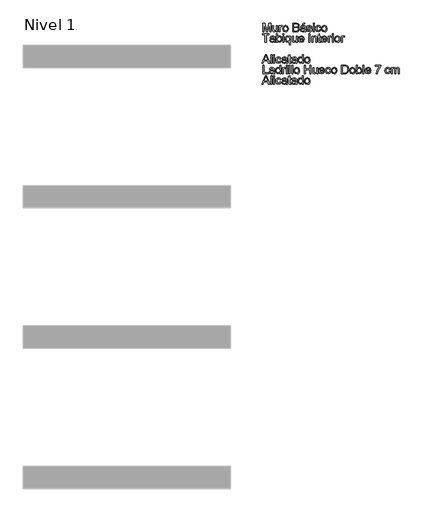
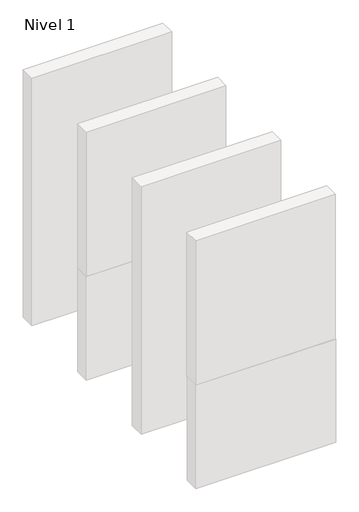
# One storey, part 2 of 2: 1 proxy.
"""IFC4 building model written with IfcOpenShell, lengths in millimetres."""

from ifc_helpers import new_model, si_unit, origin, origin_with_axes, place, context, project, spatial, polyline, outline, extrude, element, save

model = new_model("IFC4")

# Units and contexts
model_context = context("Model", 3, world=origin())
ifc_project = project(units=[si_unit("LENGTHUNIT", "METRE", prefix="MILLI")], contexts=[model_context])

# Site, building, storey
site = spatial("IfcSite", under=ifc_project)
building = spatial("IfcBuilding", under=site)
storey = spatial("IfcBuildingStorey", under=building, Name="Nivel 1", Elevation=0.0)

# Proxy
placement = place(None, origin())
element("IfcBuildingElementProxy", 1, Name="4mm Arial", ObjectType="4mm Arial", at=placement, inside=storey, context=model_context, shape_type="SweptSolid", body=[
    extrude(outline(polyline([(-3843.5493625, -1002.1417002), (-3843.5493625, -962.7570848), (-3835.0782087, -962.7570848), (-3827.0205163, -990.5167002), (-3825.3955163, -996.3147771), (-3823.635901, -990.0359309), (-3815.712824, -962.7570848), (-3807.2416702, -962.7570848), (-3807.2416702, -1002.1417002), (-3812.1647471, -1002.1417002), (-3812.1647471, -967.6801617), (-3822.0589779, -1002.1417002), (-3828.7320548, -1002.1417002), (-3838.6262856, -967.6801617), (-3838.6262856, -1002.1417002), (-3843.5493625, -1002.1417002)])), origin_with_axes(), (0.0, 0.0, 1.0), 10.0),
    extrude(outline(polyline([(-3780.7801317, -1002.1417002), (-3780.7801317, -997.1705463), (-3789.6647471, -1002.7570848), (-3794.2945548, -1001.7763155), (-3797.4868625, -999.3147771), (-3798.9532087, -995.6897771), (-3799.2416702, -991.112854), (-3799.2416702, -973.2186232), (-3794.3185933, -973.2186232), (-3794.3185933, -988.7955463), (-3794.0205163, -993.8147771), (-3792.073401, -996.7618925), (-3788.4051317, -997.8340079), (-3784.2945548, -996.737854), (-3781.5782087, -993.7522771), (-3780.7801317, -988.2667002), (-3780.7801317, -973.2186232), (-3775.8570548, -973.2186232), (-3775.8570548, -1002.1417002), (-3780.7801317, -1002.1417002)])), origin_with_axes(), (0.0, 0.0, 1.0), 10.0),
    extrude(outline(polyline([(-3769.087824, -1002.1417002), (-3769.087824, -973.2186232), (-3764.7801317, -973.2186232), (-3764.7801317, -977.4974694), (-3761.7224394, -973.5551617), (-3758.6455163, -972.6032386), (-3753.7032087, -974.1224694), (-3755.3474394, -978.5359309), (-3758.8089779, -977.5263155), (-3761.5926317, -978.4974694), (-3763.3666702, -981.1897771), (-3764.1647471, -986.9397771), (-3764.1647471, -1002.1417002), (-3769.087824, -1002.1417002)])), origin_with_axes(), (0.0, 0.0, 1.0), 10.0),
    extrude(outline(polyline([(-3751.8570548, -987.6801617), (-3747.5974394, -975.8051617), (-3738.9243625, -972.6032386), (-3729.6214779, -976.5022771), (-3726.010901, -987.2763155), (-3727.6070548, -996.0359309), (-3732.2560933, -1000.9926617), (-3738.9243625, -1002.7570848), (-3748.2849394, -998.8724694), (-3751.8570548, -987.6801617)]), holes=[polyline([(-3746.9339779, -987.6705463), (-3744.6551317, -995.300354), (-3738.9243625, -997.8340079), (-3733.212824, -995.2859309), (-3730.9339779, -987.5167002), (-3733.2272471, -980.0599694), (-3738.9243625, -977.5263155), (-3744.6551317, -980.050354), (-3746.9339779, -987.6705463)])]), origin_with_axes(), (0.0, 0.0, 1.0), 10.0),
    extrude(outline(polyline([(-3704.4724394, -1002.1417002), (-3704.4724394, -962.7570848), (-3689.4435933, -962.7570848), (-3682.0830163, -963.9157386), (-3677.7368625, -967.4782386), (-3676.1647471, -972.5167002), (-3677.4868625, -977.1176617), (-3681.4820548, -980.6032386), (-3676.6310933, -984.2763155), (-3674.9339779, -990.4013155), (-3676.0926317, -995.6945848), (-3678.962824, -999.4638155), (-3683.2464779, -1001.4638155), (-3689.5589779, -1002.1417002), (-3704.4724394, -1002.1417002)]), holes=[polyline([(-3699.5493625, -978.7570848), (-3690.5589779, -978.7570848), (-3685.3089779, -978.3340079), (-3682.150324, -976.5118925), (-3681.087824, -973.3051617), (-3682.0782087, -970.0936232), (-3684.9147471, -968.1945848), (-3691.2416702, -967.6801617), (-3699.5493625, -967.6801617), (-3699.5493625, -978.7570848)]), polyline([(-3699.5493625, -997.2186232), (-3689.4532087, -997.2186232), (-3685.7993625, -997.0263155), (-3682.7080163, -995.9542002), (-3680.6599394, -993.7667002), (-3679.8570548, -990.4493925), (-3680.7993625, -986.6224694), (-3683.8522471, -984.3388155), (-3689.9339779, -983.6801617), (-3699.5493625, -983.6801617), (-3699.5493625, -997.2186232)])]), origin_with_axes(), (0.0, 0.0, 1.0), 10.0),
    extrude(outline(polyline([(-3650.3185933, -998.4493925), (-3655.0926317, -1001.7859309), (-3660.3666702, -1002.7570848), (-3667.5157087, -1000.4205463), (-3670.010901, -994.4493925), (-3669.0685933, -990.5551617), (-3666.5926317, -987.7282386), (-3663.1455163, -986.112854), (-3658.885901, -985.3724694), (-3650.3474394, -983.6801617), (-3651.6743625, -978.9493925), (-3657.1166702, -977.5263155), (-3662.0974394, -978.4734309), (-3664.4724394, -981.8340079), (-3669.3955163, -981.2186232), (-3667.2657087, -976.4109309), (-3662.9772471, -973.5936232), (-3656.4820548, -972.6032386), (-3650.5157087, -973.4782386), (-3647.1455163, -975.675354), (-3645.635901, -979.0167002), (-3645.3955163, -983.3243925), (-3645.3955163, -989.4493925), (-3645.1455163, -998.0022771), (-3644.1647471, -1002.1417002), (-3649.087824, -1002.1417002), (-3650.3185933, -998.4493925)]), holes=[polyline([(-3650.3330163, -989.300354), (-3658.260901, -990.112854), (-3662.4964779, -990.9109309), (-3664.4147471, -992.2090079), (-3665.087824, -994.1032386), (-3663.6214779, -996.7667002), (-3659.3185933, -997.8340079), (-3654.337824, -996.6561232), (-3651.1262856, -993.8051617), (-3650.3330163, -989.300354)])]), origin_with_axes(), (0.0, 0.0, 1.0), 10.0),
    extrude(outline(polyline([(-3660.1647471, -970.1417002), (-3656.4724394, -962.7570848), (-3650.3185933, -962.7570848), (-3656.4724394, -970.1417002), (-3660.1647471, -970.1417002)])), origin_with_axes(), (0.0, 0.0, 1.0), 10.0),
    extrude(outline(polyline([(-3640.4724394, -993.5263155), (-3635.5493625, -992.9109309), (-3633.2705163, -996.5647771), (-3628.0493625, -997.8340079), (-3623.0301317, -996.6705463), (-3621.3955163, -993.9397771), (-3623.0397471, -991.7282386), (-3628.1070548, -990.3243925), (-3635.5205163, -987.9157386), (-3638.7560933, -985.1032386), (-3639.8570548, -981.1320848), (-3638.9724394, -977.4638155), (-3636.5589779, -974.6609309), (-3633.4291702, -973.2042002), (-3629.1935933, -972.6032386), (-3623.2032087, -973.5695848), (-3619.3955163, -976.1849694), (-3617.7032087, -980.6032386), (-3622.6262856, -981.2186232), (-3624.4772471, -978.5022771), (-3628.8089779, -977.5263155), (-3633.5205163, -978.4590079), (-3634.9339779, -980.6320848), (-3632.510901, -983.1513155), (-3628.2705163, -984.1993925), (-3621.0445548, -986.5167002), (-3617.6887856, -989.1417002), (-3616.4724394, -993.4205463), (-3617.900324, -998.1320848), (-3622.0205163, -1001.550354), (-3628.1166702, -1002.7570848), (-3636.7032087, -1000.4301617), (-3640.4724394, -993.5263155)])), origin_with_axes(), (0.0, 0.0, 1.0), 10.0),
    extrude(outline(polyline([(-3610.9339779, -1002.1417002), (-3610.9339779, -973.2186232), (-3606.010901, -973.2186232), (-3606.010901, -1002.1417002), (-3610.9339779, -1002.1417002)])), origin_with_axes(), (0.0, 0.0, 1.0), 10.0),
    extrude(outline(polyline([(-3610.9339779, -967.6801617), (-3610.9339779, -962.7570848), (-3606.010901, -962.7570848), (-3606.010901, -967.6801617), (-3610.9339779, -967.6801617)])), origin_with_axes(), (0.0, 0.0, 1.0), 10.0),
    extrude(outline(polyline([(-3580.1647471, -991.6801617), (-3575.2416702, -992.2955463), (-3579.1935933, -999.9830463), (-3587.0012856, -1002.7570848), (-3596.3330163, -998.8868925), (-3599.8570548, -987.7859309), (-3598.3522471, -979.6080463), (-3593.7657087, -974.3532386), (-3587.0685933, -972.6032386), (-3579.5830163, -975.0070848), (-3575.8570548, -981.8340079), (-3580.7801317, -982.4493925), (-3583.0637856, -978.7618925), (-3587.0301317, -977.5263155), (-3592.7368625, -979.9590079), (-3594.9339779, -987.6513155), (-3592.7849394, -995.4157386), (-3587.1647471, -997.8340079), (-3582.525324, -996.3243925), (-3580.1647471, -991.6801617)])), origin_with_axes(), (0.0, 0.0, 1.0), 10.0),
    extrude(outline(polyline([(-3572.1647471, -987.6801617), (-3567.9051317, -975.8051617), (-3559.2320548, -972.6032386), (-3549.9291702, -976.5022771), (-3546.3185933, -987.2763155), (-3547.9147471, -996.0359309), (-3552.5637856, -1000.9926617), (-3559.2320548, -1002.7570848), (-3568.5926317, -998.8724694), (-3572.1647471, -987.6801617)]), holes=[polyline([(-3567.2416702, -987.6705463), (-3564.962824, -995.300354), (-3559.2320548, -997.8340079), (-3553.5205163, -995.2859309), (-3551.2416702, -987.5167002), (-3553.5349394, -980.0599694), (-3559.2320548, -977.5263155), (-3564.962824, -980.050354), (-3567.2416702, -987.6705463)])]), origin_with_axes(), (0.0, 0.0, 1.0), 10.0),
    extrude(outline(polyline([(-3833.7032087, -1050.7570848), (-3833.7032087, -1016.2955463), (-3846.6262856, -1016.2955463), (-3846.6262856, -1011.3724694), (-3815.8570548, -1011.3724694), (-3815.8570548, -1016.2955463), (-3828.7801317, -1016.2955463), (-3828.7801317, -1050.7570848), (-3833.7032087, -1050.7570848)])), origin_with_axes(), (0.0, 0.0, 1.0), 10.0),
    extrude(outline(polyline([(-3792.4724394, -1047.0647771), (-3797.2464779, -1050.4013155), (-3802.5205163, -1051.3724694), (-3809.6695548, -1049.0359309), (-3812.1647471, -1043.0647771), (-3811.2224394, -1039.1705463), (-3808.7464779, -1036.3436232), (-3805.2993625, -1034.7282386), (-3801.0397471, -1033.987854), (-3792.5012856, -1032.2955463), (-3793.8282087, -1027.5647771), (-3799.2705163, -1026.1417002), (-3804.2512856, -1027.0888155), (-3806.6262856, -1030.4493925), (-3811.5493625, -1029.8340079), (-3809.4195548, -1025.0263155), (-3805.1310933, -1022.2090079), (-3798.635901, -1021.2186232), (-3792.6695548, -1022.0936232), (-3789.2993625, -1024.2907386), (-3787.7897471, -1027.6320848), (-3787.5493625, -1031.9397771), (-3787.5493625, -1038.0647771), (-3787.2993625, -1046.6176617), (-3786.3185933, -1050.7570848), (-3791.2416702, -1050.7570848), (-3792.4724394, -1047.0647771)]), holes=[polyline([(-3792.4868625, -1037.9157386), (-3800.4147471, -1038.7282386), (-3804.650324, -1039.5263155), (-3806.5685933, -1040.8243925), (-3807.2416702, -1042.7186232), (-3805.775324, -1045.3820848), (-3801.4724394, -1046.4493925), (-3796.4916702, -1045.2715079), (-3793.2801317, -1042.4205463), (-3792.4868625, -1037.9157386)])]), origin_with_axes(), (0.0, 0.0, 1.0), 10.0),
    extrude(outline(polyline([(-3775.8570548, -1050.7570848), (-3780.7801317, -1050.7570848), (-3780.7801317, -1011.3724694), (-3775.8570548, -1011.3724694), (-3775.8570548, -1025.9782386), (-3768.1262856, -1021.2186232), (-3763.1935933, -1022.2907386), (-3759.3666702, -1025.3051617), (-3757.0157087, -1029.9926617), (-3756.1647471, -1035.862854), (-3759.6887856, -1047.3243925), (-3768.1551317, -1051.3724694), (-3775.8570548, -1046.1513155), (-3775.8570548, -1050.7570848)]), holes=[polyline([(-3775.8570548, -1036.0936232), (-3774.510901, -1042.9782386), (-3768.5782087, -1046.4493925), (-3763.3089779, -1043.8917002), (-3761.087824, -1036.2667002), (-3763.2176317, -1028.612854), (-3768.3666702, -1026.1417002), (-3773.635901, -1028.6993925), (-3775.8570548, -1036.0936232)])]), origin_with_axes(), (0.0, 0.0, 1.0), 10.0),
    extrude(outline(polyline([(-3750.6262856, -1050.7570848), (-3750.6262856, -1021.8340079), (-3745.7032087, -1021.8340079), (-3745.7032087, -1050.7570848), (-3750.6262856, -1050.7570848)])), origin_with_axes(), (0.0, 0.0, 1.0), 10.0),
    extrude(outline(polyline([(-3750.6262856, -1016.2955463), (-3750.6262856, -1011.3724694), (-3745.7032087, -1011.3724694), (-3745.7032087, -1016.2955463), (-3750.6262856, -1016.2955463)])), origin_with_axes(), (0.0, 0.0, 1.0), 10.0),
    extrude(outline(polyline([(-3720.4724394, -1061.8340079), (-3720.4724394, -1046.8147771), (-3723.5974394, -1050.0743925), (-3727.8666702, -1051.3724694), (-3736.5301317, -1047.2715079), (-3740.1647471, -1036.0263155), (-3738.7224394, -1028.2282386), (-3734.5397471, -1022.9974694), (-3728.5301317, -1021.2186232), (-3720.4724394, -1026.737854), (-3720.4724394, -1021.8340079), (-3715.5493625, -1021.8340079), (-3715.5493625, -1061.8340079), (-3720.4724394, -1061.8340079)]), holes=[polyline([(-3735.2416702, -1036.2955463), (-3733.025324, -1043.9109309), (-3727.712824, -1046.4493925), (-3722.6118625, -1044.0359309), (-3720.4724394, -1036.6897771), (-3722.7272471, -1028.7907386), (-3728.0205163, -1026.1417002), (-3733.1407087, -1028.6080463), (-3735.2416702, -1036.2955463)])]), origin_with_axes(), (0.0, 0.0, 1.0), 10.0),
    extrude(outline(polyline([(-3689.7032087, -1050.7570848), (-3689.7032087, -1045.7859309), (-3698.587824, -1051.3724694), (-3703.2176317, -1050.3917002), (-3706.4099394, -1047.9301617), (-3707.8762856, -1044.3051617), (-3708.1647471, -1039.7282386), (-3708.1647471, -1021.8340079), (-3703.2416702, -1021.8340079), (-3703.2416702, -1037.4109309), (-3702.9435933, -1042.4301617), (-3700.9964779, -1045.3772771), (-3697.3282087, -1046.4493925), (-3693.2176317, -1045.3532386), (-3690.5012856, -1042.3676617), (-3689.7032087, -1036.8820848), (-3689.7032087, -1021.8340079), (-3684.7801317, -1021.8340079), (-3684.7801317, -1050.7570848), (-3689.7032087, -1050.7570848)])), origin_with_axes(), (0.0, 0.0, 1.0), 10.0),
    extrude(outline(polyline([(-3657.760901, -1042.1417002), (-3652.9339779, -1042.7570848), (-3657.448401, -1049.112854), (-3665.8570548, -1051.3724694), (-3676.0782087, -1047.4734309), (-3679.8570548, -1036.5359309), (-3676.0397471, -1025.237854), (-3666.135901, -1021.2186232), (-3656.5157087, -1025.2282386), (-3652.7801317, -1036.5070848), (-3674.9339779, -1037.8340079), (-3672.1022471, -1044.2282386), (-3665.760901, -1046.4493925), (-3660.9339779, -1045.4205463), (-3657.760901, -1042.1417002)]), holes=[polyline([(-3674.9339779, -1032.9109309), (-3657.7032087, -1032.9109309), (-3659.6743625, -1028.4493925), (-3666.1551317, -1026.1417002), (-3672.2176317, -1027.9830463), (-3674.9339779, -1032.9109309)])]), origin_with_axes(), (0.0, 0.0, 1.0), 10.0),
    extrude(outline(polyline([(-3631.2416702, -1050.7570848), (-3631.2416702, -1011.3724694), (-3626.3185933, -1011.3724694), (-3626.3185933, -1050.7570848), (-3631.2416702, -1050.7570848)])), origin_with_axes(), (0.0, 0.0, 1.0), 10.0),
    extrude(outline(polyline([(-3617.087824, -1050.7570848), (-3617.087824, -1021.8340079), (-3612.1647471, -1021.8340079), (-3612.1647471, -1025.8724694), (-3603.260901, -1021.2186232), (-3598.6118625, -1022.1561232), (-3595.4387856, -1024.6176617), (-3593.962824, -1028.237854), (-3593.7032087, -1032.9974694), (-3593.7032087, -1050.7570848), (-3598.6262856, -1050.7570848), (-3598.6262856, -1033.6609309), (-3599.1935933, -1029.3051617), (-3601.198401, -1027.0022771), (-3604.5782087, -1026.1417002), (-3609.9195548, -1028.0743925), (-3612.1647471, -1035.4109309), (-3612.1647471, -1050.7570848), (-3617.087824, -1050.7570848)])), origin_with_axes(), (0.0, 0.0, 1.0), 10.0),
    extrude(outline(polyline([(-3576.4724394, -1046.6513155), (-3575.8570548, -1050.9013155), (-3579.5397471, -1051.3724694), (-3583.6647471, -1050.5551617), (-3585.7224394, -1048.4109309), (-3586.3185933, -1042.8243925), (-3586.3185933, -1026.7570848), (-3590.010901, -1026.7570848), (-3590.010901, -1021.8340079), (-3586.3185933, -1021.8340079), (-3586.3185933, -1014.8051617), (-3581.3955163, -1011.9109309), (-3581.3955163, -1021.8340079), (-3576.4724394, -1021.8340079), (-3576.4724394, -1026.7570848), (-3581.3955163, -1026.7570848), (-3581.3955163, -1042.6801617), (-3581.135901, -1045.2186232), (-3578.6166702, -1046.4493925), (-3576.4724394, -1046.6513155)])), origin_with_axes(), (0.0, 0.0, 1.0), 10.0),
    extrude(outline(polyline([(-3551.2993625, -1042.1417002), (-3546.4724394, -1042.7570848), (-3550.9868625, -1049.112854), (-3559.3955163, -1051.3724694), (-3569.6166702, -1047.4734309), (-3573.3955163, -1036.5359309), (-3569.5782087, -1025.237854), (-3559.6743625, -1021.2186232), (-3550.0541702, -1025.2282386), (-3546.3185933, -1036.5070848), (-3568.4724394, -1037.8340079), (-3565.6407087, -1044.2282386), (-3559.2993625, -1046.4493925), (-3554.4724394, -1045.4205463), (-3551.2993625, -1042.1417002)]), holes=[polyline([(-3568.4724394, -1032.9109309), (-3551.2416702, -1032.9109309), (-3553.212824, -1028.4493925), (-3559.6935933, -1026.1417002), (-3565.7560933, -1027.9830463), (-3568.4724394, -1032.9109309)])]), origin_with_axes(), (0.0, 0.0, 1.0), 10.0),
    extrude(outline(polyline([(-3541.3955163, -1050.7570848), (-3541.3955163, -1021.8340079), (-3537.087824, -1021.8340079), (-3537.087824, -1026.112854), (-3534.0301317, -1022.1705463), (-3530.9532087, -1021.2186232), (-3526.010901, -1022.737854), (-3527.6551317, -1027.1513155), (-3531.1166702, -1026.1417002), (-3533.900324, -1027.112854), (-3535.6743625, -1029.8051617), (-3536.4724394, -1035.5551617), (-3536.4724394, -1050.7570848), (-3541.3955163, -1050.7570848)])), origin_with_axes(), (0.0, 0.0, 1.0), 10.0),
    extrude(outline(polyline([(-3522.9339779, -1050.7570848), (-3522.9339779, -1021.8340079), (-3518.010901, -1021.8340079), (-3518.010901, -1050.7570848), (-3522.9339779, -1050.7570848)])), origin_with_axes(), (0.0, 0.0, 1.0), 10.0),
    extrude(outline(polyline([(-3522.9339779, -1016.2955463), (-3522.9339779, -1011.3724694), (-3518.010901, -1011.3724694), (-3518.010901, -1016.2955463), (-3522.9339779, -1016.2955463)])), origin_with_axes(), (0.0, 0.0, 1.0), 10.0),
    extrude(outline(polyline([(-3511.8570548, -1036.2955463), (-3507.5974394, -1024.4205463), (-3498.9243625, -1021.2186232), (-3489.6214779, -1025.1176617), (-3486.010901, -1035.8917002), (-3487.6070548, -1044.6513155), (-3492.2560933, -1049.6080463), (-3498.9243625, -1051.3724694), (-3508.2849394, -1047.487854), (-3511.8570548, -1036.2955463)]), holes=[polyline([(-3506.9339779, -1036.2859309), (-3504.6551317, -1043.9157386), (-3498.9243625, -1046.4493925), (-3493.212824, -1043.9013155), (-3490.9339779, -1036.1320848), (-3493.2272471, -1028.675354), (-3498.9243625, -1026.1417002), (-3504.6551317, -1028.6657386), (-3506.9339779, -1036.2859309)])]), origin_with_axes(), (0.0, 0.0, 1.0), 10.0),
    extrude(outline(polyline([(-3480.4724394, -1050.7570848), (-3480.4724394, -1021.8340079), (-3476.1647471, -1021.8340079), (-3476.1647471, -1026.112854), (-3473.1070548, -1022.1705463), (-3470.0301317, -1021.2186232), (-3465.087824, -1022.737854), (-3466.7320548, -1027.1513155), (-3470.1935933, -1026.1417002), (-3472.9772471, -1027.112854), (-3474.7512856, -1029.8051617), (-3475.5493625, -1035.5551617), (-3475.5493625, -1050.7570848), (-3480.4724394, -1050.7570848)])), origin_with_axes(), (0.0, 0.0, 1.0), 10.0),
    extrude(outline(polyline([(-3848.135901, -1147.987854), (-3832.4147471, -1108.6032386), (-3828.2224394, -1108.6032386), (-3812.5012856, -1147.987854), (-3817.7032087, -1147.987854), (-3822.212824, -1135.6801617), (-3838.4339779, -1135.6801617), (-3842.9339779, -1147.987854), (-3848.135901, -1147.987854)]), holes=[polyline([(-3836.6262856, -1130.7570848), (-3824.010901, -1130.7570848), (-3827.5589779, -1121.0743925), (-3830.3185933, -1113.5263155), (-3832.7705163, -1120.2282386), (-3836.6262856, -1130.7570848)])]), origin_with_axes(), (0.0, 0.0, 1.0), 10.0),
    extrude(outline(polyline([(-3807.8570548, -1147.987854), (-3807.8570548, -1108.6032386), (-3802.9339779, -1108.6032386), (-3802.9339779, -1147.987854), (-3807.8570548, -1147.987854)])), origin_with_axes(), (0.0, 0.0, 1.0), 10.0),
    extrude(outline(polyline([(-3795.5493625, -1147.987854), (-3795.5493625, -1119.0647771), (-3790.6262856, -1119.0647771), (-3790.6262856, -1147.987854), (-3795.5493625, -1147.987854)])), origin_with_axes(), (0.0, 0.0, 1.0), 10.0),
    extrude(outline(polyline([(-3795.5493625, -1113.5263155), (-3795.5493625, -1108.6032386), (-3790.6262856, -1108.6032386), (-3790.6262856, -1113.5263155), (-3795.5493625, -1113.5263155)])), origin_with_axes(), (0.0, 0.0, 1.0), 10.0),
    extrude(outline(polyline([(-3764.7801317, -1137.5263155), (-3759.8570548, -1138.1417002), (-3763.8089779, -1145.8292002), (-3771.6166702, -1148.6032386), (-3780.948401, -1144.7330463), (-3784.4724394, -1133.6320848), (-3782.9676317, -1125.4542002), (-3778.3810933, -1120.1993925), (-3771.6839779, -1118.4493925), (-3764.198401, -1120.8532386), (-3760.4724394, -1127.6801617), (-3765.3955163, -1128.2955463), (-3767.6791702, -1124.6080463), (-3771.6455163, -1123.3724694), (-3777.3522471, -1125.8051617), (-3779.5493625, -1133.4974694), (-3777.400324, -1141.2618925), (-3771.7801317, -1143.6801617), (-3767.1407087, -1142.1705463), (-3764.7801317, -1137.5263155)])), origin_with_axes(), (0.0, 0.0, 1.0), 10.0),
    extrude(outline(polyline([(-3737.087824, -1144.2955463), (-3741.8618625, -1147.6320848), (-3747.135901, -1148.6032386), (-3754.2849394, -1146.2667002), (-3756.7801317, -1140.2955463), (-3755.837824, -1136.4013155), (-3753.3618625, -1133.5743925), (-3749.9147471, -1131.9590079), (-3745.6551317, -1131.2186232), (-3737.1166702, -1129.5263155), (-3738.4435933, -1124.7955463), (-3743.885901, -1123.3724694), (-3748.8666702, -1124.3195848), (-3751.2416702, -1127.6801617), (-3756.1647471, -1127.0647771), (-3754.0349394, -1122.2570848), (-3749.7464779, -1119.4397771), (-3743.2512856, -1118.4493925), (-3737.2849394, -1119.3243925), (-3733.9147471, -1121.5215079), (-3732.4051317, -1124.862854), (-3732.1647471, -1129.1705463), (-3732.1647471, -1135.2955463), (-3731.9147471, -1143.8484309), (-3730.9339779, -1147.987854), (-3735.8570548, -1147.987854), (-3737.087824, -1144.2955463)]), holes=[polyline([(-3737.1022471, -1135.1465079), (-3745.0301317, -1135.9590079), (-3749.2657087, -1136.7570848), (-3751.1839779, -1138.0551617), (-3751.8570548, -1139.9493925), (-3750.3907087, -1142.612854), (-3746.087824, -1143.6801617), (-3741.1070548, -1142.5022771), (-3737.8955163, -1139.6513155), (-3737.1022471, -1135.1465079)])]), origin_with_axes(), (0.0, 0.0, 1.0), 10.0),
    extrude(outline(polyline([(-3714.9339779, -1143.8820848), (-3714.3185933, -1148.1320848), (-3718.0012856, -1148.6032386), (-3722.1262856, -1147.7859309), (-3724.1839779, -1145.6417002), (-3724.7801317, -1140.0551617), (-3724.7801317, -1123.987854), (-3728.4724394, -1123.987854), (-3728.4724394, -1119.0647771), (-3724.7801317, -1119.0647771), (-3724.7801317, -1112.0359309), (-3719.8570548, -1109.1417002), (-3719.8570548, -1119.0647771), (-3714.9339779, -1119.0647771), (-3714.9339779, -1123.987854), (-3719.8570548, -1123.987854), (-3719.8570548, -1139.9109309), (-3719.5974394, -1142.4493925), (-3717.0782087, -1143.6801617), (-3714.9339779, -1143.8820848)])), origin_with_axes(), (0.0, 0.0, 1.0), 10.0),
    extrude(outline(polyline([(-3691.5493625, -1144.2955463), (-3696.323401, -1147.6320848), (-3701.5974394, -1148.6032386), (-3708.7464779, -1146.2667002), (-3711.2416702, -1140.2955463), (-3710.2993625, -1136.4013155), (-3707.823401, -1133.5743925), (-3704.3762856, -1131.9590079), (-3700.1166702, -1131.2186232), (-3691.5782087, -1129.5263155), (-3692.9051317, -1124.7955463), (-3698.3474394, -1123.3724694), (-3703.3282087, -1124.3195848), (-3705.7032087, -1127.6801617), (-3710.6262856, -1127.0647771), (-3708.4964779, -1122.2570848), (-3704.2080163, -1119.4397771), (-3697.712824, -1118.4493925), (-3691.7464779, -1119.3243925), (-3688.3762856, -1121.5215079), (-3686.8666702, -1124.862854), (-3686.6262856, -1129.1705463), (-3686.6262856, -1135.2955463), (-3686.3762856, -1143.8484309), (-3685.3955163, -1147.987854), (-3690.3185933, -1147.987854), (-3691.5493625, -1144.2955463)]), holes=[polyline([(-3691.5637856, -1135.1465079), (-3699.4916702, -1135.9590079), (-3703.7272471, -1136.7570848), (-3705.6455163, -1138.0551617), (-3706.3185933, -1139.9493925), (-3704.8522471, -1142.612854), (-3700.5493625, -1143.6801617), (-3695.5685933, -1142.5022771), (-3692.3570548, -1139.6513155), (-3691.5637856, -1135.1465079)])]), origin_with_axes(), (0.0, 0.0, 1.0), 10.0),
    extrude(outline(polyline([(-3662.010901, -1147.987854), (-3662.010901, -1143.3436232), (-3669.7705163, -1148.6032386), (-3675.8666702, -1146.6993925), (-3680.1743625, -1141.3868925), (-3681.7032087, -1133.5551617), (-3680.2945548, -1125.7186232), (-3676.073401, -1120.3243925), (-3669.7897471, -1118.4493925), (-3665.2512856, -1119.7907386), (-3662.010901, -1123.2763155), (-3662.010901, -1108.6032386), (-3657.087824, -1108.6032386), (-3657.087824, -1147.987854), (-3662.010901, -1147.987854)]), holes=[polyline([(-3676.7801317, -1133.5359309), (-3674.5589779, -1141.1561232), (-3669.3185933, -1143.6801617), (-3664.1407087, -1141.2715079), (-3662.010901, -1133.9109309), (-3664.1791702, -1125.9205463), (-3669.5205163, -1123.3724694), (-3674.7032087, -1125.8195848), (-3676.7801317, -1133.5359309)])]), origin_with_axes(), (0.0, 0.0, 1.0), 10.0),
    extrude(outline(polyline([(-3650.9339779, -1133.5263155), (-3646.6743625, -1121.6513155), (-3638.0012856, -1118.4493925), (-3628.698401, -1122.3484309), (-3625.087824, -1133.1224694), (-3626.6839779, -1141.8820848), (-3631.3330163, -1146.8388155), (-3638.0012856, -1148.6032386), (-3647.3618625, -1144.7186232), (-3650.9339779, -1133.5263155)]), holes=[polyline([(-3646.010901, -1133.5167002), (-3643.7320548, -1141.1465079), (-3638.0012856, -1143.6801617), (-3632.2897471, -1141.1320848), (-3630.010901, -1133.362854), (-3632.3041702, -1125.9061232), (-3638.0012856, -1123.3724694), (-3643.7320548, -1125.8965079), (-3646.010901, -1133.5167002)])]), origin_with_axes(), (0.0, 0.0, 1.0), 10.0),
    extrude(outline(polyline([(-3843.5493625, -1196.6032386), (-3843.5493625, -1157.2186232), (-3838.6262856, -1157.2186232), (-3838.6262856, -1191.6801617), (-3818.9339779, -1191.6801617), (-3818.9339779, -1196.6032386), (-3843.5493625, -1196.6032386)])), origin_with_axes(), (0.0, 0.0, 1.0), 10.0),
    extrude(outline(polyline([(-3795.5493625, -1192.9109309), (-3800.323401, -1196.2474694), (-3805.5974394, -1197.2186232), (-3812.7464779, -1194.8820848), (-3815.2416702, -1188.9109309), (-3814.2993625, -1185.0167002), (-3811.823401, -1182.1897771), (-3808.3762856, -1180.5743925), (-3804.1166702, -1179.8340079), (-3795.5782087, -1178.1417002), (-3796.9051317, -1173.4109309), (-3802.3474394, -1171.987854), (-3807.3282087, -1172.9349694), (-3809.7032087, -1176.2955463), (-3814.6262856, -1175.6801617), (-3812.4964779, -1170.8724694), (-3808.2080163, -1168.0551617), (-3801.712824, -1167.0647771), (-3795.7464779, -1167.9397771), (-3792.3762856, -1170.1368925), (-3790.8666702, -1173.4782386), (-3790.6262856, -1177.7859309), (-3790.6262856, -1183.9109309), (-3790.3762856, -1192.4638155), (-3789.3955163, -1196.6032386), (-3794.3185933, -1196.6032386), (-3795.5493625, -1192.9109309)]), holes=[polyline([(-3795.5637856, -1183.7618925), (-3803.4916702, -1184.5743925), (-3807.7272471, -1185.3724694), (-3809.6455163, -1186.6705463), (-3810.3185933, -1188.5647771), (-3808.8522471, -1191.2282386), (-3804.5493625, -1192.2955463), (-3799.5685933, -1191.1176617), (-3796.3570548, -1188.2667002), (-3795.5637856, -1183.7618925)])]), origin_with_axes(), (0.0, 0.0, 1.0), 10.0),
    extrude(outline(polyline([(-3766.010901, -1196.6032386), (-3766.010901, -1191.9590079), (-3773.7705163, -1197.2186232), (-3779.8666702, -1195.3147771), (-3784.1743625, -1190.0022771), (-3785.7032087, -1182.1705463), (-3784.2945548, -1174.3340079), (-3780.073401, -1168.9397771), (-3773.7897471, -1167.0647771), (-3769.2512856, -1168.4061232), (-3766.010901, -1171.8917002), (-3766.010901, -1157.2186232), (-3761.087824, -1157.2186232), (-3761.087824, -1196.6032386), (-3766.010901, -1196.6032386)]), holes=[polyline([(-3780.7801317, -1182.1513155), (-3778.5589779, -1189.7715079), (-3773.3185933, -1192.2955463), (-3768.1407087, -1189.8868925), (-3766.010901, -1182.5263155), (-3768.1791702, -1174.5359309), (-3773.5205163, -1171.987854), (-3778.7032087, -1174.4349694), (-3780.7801317, -1182.1513155)])]), origin_with_axes(), (0.0, 0.0, 1.0), 10.0),
    extrude(outline(polyline([(-3753.7032087, -1196.6032386), (-3753.7032087, -1167.6801617), (-3749.3955163, -1167.6801617), (-3749.3955163, -1171.9590079), (-3746.337824, -1168.0167002), (-3743.260901, -1167.0647771), (-3738.3185933, -1168.5840079), (-3739.962824, -1172.9974694), (-3743.4243625, -1171.987854), (-3746.2080163, -1172.9590079), (-3747.9820548, -1175.6513155), (-3748.7801317, -1181.4013155), (-3748.7801317, -1196.6032386), (-3753.7032087, -1196.6032386)])), origin_with_axes(), (0.0, 0.0, 1.0), 10.0),
    extrude(outline(polyline([(-3735.2416702, -1196.6032386), (-3735.2416702, -1167.6801617), (-3730.3185933, -1167.6801617), (-3730.3185933, -1196.6032386), (-3735.2416702, -1196.6032386)])), origin_with_axes(), (0.0, 0.0, 1.0), 10.0),
    extrude(outline(polyline([(-3735.2416702, -1162.1417002), (-3735.2416702, -1157.2186232), (-3730.3185933, -1157.2186232), (-3730.3185933, -1162.1417002), (-3735.2416702, -1162.1417002)])), origin_with_axes(), (0.0, 0.0, 1.0), 10.0),
    extrude(outline(polyline([(-3722.9339779, -1196.6032386), (-3722.9339779, -1157.2186232), (-3718.010901, -1157.2186232), (-3718.010901, -1196.6032386), (-3722.9339779, -1196.6032386)])), origin_with_axes(), (0.0, 0.0, 1.0), 10.0),
    extrude(outline(polyline([(-3710.6262856, -1196.6032386), (-3710.6262856, -1157.2186232), (-3705.7032087, -1157.2186232), (-3705.7032087, -1196.6032386), (-3710.6262856, -1196.6032386)])), origin_with_axes(), (0.0, 0.0, 1.0), 10.0),
    extrude(outline(polyline([(-3699.5493625, -1182.1417002), (-3695.2897471, -1170.2667002), (-3686.6166702, -1167.0647771), (-3677.3137856, -1170.9638155), (-3673.7032087, -1181.737854), (-3675.2993625, -1190.4974694), (-3679.948401, -1195.4542002), (-3686.6166702, -1197.2186232), (-3695.9772471, -1193.3340079), (-3699.5493625, -1182.1417002)]), holes=[polyline([(-3694.6262856, -1182.1320848), (-3692.3474394, -1189.7618925), (-3686.6166702, -1192.2955463), (-3680.9051317, -1189.7474694), (-3678.6262856, -1181.9782386), (-3680.9195548, -1174.5215079), (-3686.6166702, -1171.987854), (-3692.3474394, -1174.5118925), (-3694.6262856, -1182.1320848)])]), origin_with_axes(), (0.0, 0.0, 1.0), 10.0),
    extrude(outline(polyline([(-3652.1647471, -1196.6032386), (-3652.1647471, -1157.2186232), (-3647.2416702, -1157.2186232), (-3647.2416702, -1173.2186232), (-3626.3185933, -1173.2186232), (-3626.3185933, -1157.2186232), (-3621.3955163, -1157.2186232), (-3621.3955163, -1196.6032386), (-3626.3185933, -1196.6032386), (-3626.3185933, -1178.1417002), (-3647.2416702, -1178.1417002), (-3647.2416702, -1196.6032386), (-3652.1647471, -1196.6032386)])), origin_with_axes(), (0.0, 0.0, 1.0), 10.0),
    extrude(outline(polyline([(-3594.9339779, -1196.6032386), (-3594.9339779, -1191.6320848), (-3603.8185933, -1197.2186232), (-3608.448401, -1196.237854), (-3611.6407087, -1193.7763155), (-3613.1070548, -1190.1513155), (-3613.3955163, -1185.5743925), (-3613.3955163, -1167.6801617), (-3608.4724394, -1167.6801617), (-3608.4724394, -1183.2570848), (-3608.1743625, -1188.2763155), (-3606.2272471, -1191.2234309), (-3602.5589779, -1192.2955463), (-3598.448401, -1191.1993925), (-3595.7320548, -1188.2138155), (-3594.9339779, -1182.7282386), (-3594.9339779, -1167.6801617), (-3590.010901, -1167.6801617), (-3590.010901, -1196.6032386), (-3594.9339779, -1196.6032386)])), origin_with_axes(), (0.0, 0.0, 1.0), 10.0),
    extrude(outline(polyline([(-3562.9916702, -1187.987854), (-3558.1647471, -1188.6032386), (-3562.6791702, -1194.9590079), (-3571.087824, -1197.2186232), (-3581.3089779, -1193.3195848), (-3585.087824, -1182.3820848), (-3581.2705163, -1171.0840079), (-3571.3666702, -1167.0647771), (-3561.7464779, -1171.0743925), (-3558.010901, -1182.3532386), (-3580.1647471, -1183.6801617), (-3577.3330163, -1190.0743925), (-3570.9916702, -1192.2955463), (-3566.1647471, -1191.2667002), (-3562.9916702, -1187.987854)]), holes=[polyline([(-3580.1647471, -1178.7570848), (-3562.9339779, -1178.7570848), (-3564.9051317, -1174.2955463), (-3571.385901, -1171.987854), (-3577.448401, -1173.8292002), (-3580.1647471, -1178.7570848)])]), origin_with_axes(), (0.0, 0.0, 1.0), 10.0),
    extrude(outline(polyline([(-3534.6262856, -1186.1417002), (-3529.7032087, -1186.7570848), (-3533.6551317, -1194.4445848), (-3541.462824, -1197.2186232), (-3550.7945548, -1193.3484309), (-3554.3185933, -1182.2474694), (-3552.8137856, -1174.0695848), (-3548.2272471, -1168.8147771), (-3541.5301317, -1167.0647771), (-3534.0445548, -1169.4686232), (-3530.3185933, -1176.2955463), (-3535.2416702, -1176.9109309), (-3537.525324, -1173.2234309), (-3541.4916702, -1171.987854), (-3547.198401, -1174.4205463), (-3549.3955163, -1182.112854), (-3547.2464779, -1189.8772771), (-3541.6262856, -1192.2955463), (-3536.9868625, -1190.7859309), (-3534.6262856, -1186.1417002)])), origin_with_axes(), (0.0, 0.0, 1.0), 10.0),
    extrude(outline(polyline([(-3526.6262856, -1182.1417002), (-3522.3666702, -1170.2667002), (-3513.6935933, -1167.0647771), (-3504.3907087, -1170.9638155), (-3500.7801317, -1181.737854), (-3502.3762856, -1190.4974694), (-3507.025324, -1195.4542002), (-3513.6935933, -1197.2186232), (-3523.0541702, -1193.3340079), (-3526.6262856, -1182.1417002)]), holes=[polyline([(-3521.7032087, -1182.1320848), (-3519.4243625, -1189.7618925), (-3513.6935933, -1192.2955463), (-3507.9820548, -1189.7474694), (-3505.7032087, -1181.9782386), (-3507.9964779, -1174.5215079), (-3513.6935933, -1171.987854), (-3519.4243625, -1174.5118925), (-3521.7032087, -1182.1320848)])]), origin_with_axes(), (0.0, 0.0, 1.0), 10.0),
    extrude(outline(polyline([(-3479.2416702, -1196.6032386), (-3479.2416702, -1157.2186232), (-3465.6551317, -1157.2186232), (-3458.6262856, -1157.7859309), (-3452.837824, -1160.6032386), (-3448.1743625, -1167.3340079), (-3446.6262856, -1176.6993925), (-3447.6743625, -1184.6465079), (-3450.3666702, -1190.3820848), (-3453.962824, -1193.9542002), (-3458.6695548, -1195.9301617), (-3465.0012856, -1196.6032386), (-3479.2416702, -1196.6032386)]), holes=[polyline([(-3474.3185933, -1191.6801617), (-3465.6070548, -1191.6801617), (-3459.2705163, -1190.9686232), (-3455.6166702, -1188.9590079), (-3452.6214779, -1184.0695848), (-3451.5493625, -1176.6224694), (-3453.650324, -1167.2955463), (-3458.760901, -1162.9301617), (-3465.7416702, -1162.1417002), (-3474.3185933, -1162.1417002), (-3474.3185933, -1191.6801617)])]), origin_with_axes(), (0.0, 0.0, 1.0), 10.0),
    extrude(outline(polyline([(-3441.7032087, -1182.1417002), (-3437.4435933, -1170.2667002), (-3428.7705163, -1167.0647771), (-3419.4676317, -1170.9638155), (-3415.8570548, -1181.737854), (-3417.4532087, -1190.4974694), (-3422.1022471, -1195.4542002), (-3428.7705163, -1197.2186232), (-3438.1310933, -1193.3340079), (-3441.7032087, -1182.1417002)]), holes=[polyline([(-3436.7801317, -1182.1320848), (-3434.5012856, -1189.7618925), (-3428.7705163, -1192.2955463), (-3423.0589779, -1189.7474694), (-3420.7801317, -1181.9782386), (-3423.073401, -1174.5215079), (-3428.7705163, -1171.987854), (-3434.5012856, -1174.5118925), (-3436.7801317, -1182.1320848)])]), origin_with_axes(), (0.0, 0.0, 1.0), 10.0),
    extrude(outline(polyline([(-3405.3955163, -1196.6032386), (-3410.3185933, -1196.6032386), (-3410.3185933, -1157.2186232), (-3405.3955163, -1157.2186232), (-3405.3955163, -1171.8243925), (-3397.6647471, -1167.0647771), (-3392.7320548, -1168.1368925), (-3388.9051317, -1171.1513155), (-3386.5541702, -1175.8388155), (-3385.7032087, -1181.7090079), (-3389.2272471, -1193.1705463), (-3397.6935933, -1197.2186232), (-3405.3955163, -1191.9974694), (-3405.3955163, -1196.6032386)]), holes=[polyline([(-3405.3955163, -1181.9397771), (-3404.0493625, -1188.8243925), (-3398.1166702, -1192.2955463), (-3392.8474394, -1189.737854), (-3390.6262856, -1182.112854), (-3392.7560933, -1174.4590079), (-3397.9051317, -1171.987854), (-3403.1743625, -1174.5455463), (-3405.3955163, -1181.9397771)])]), origin_with_axes(), (0.0, 0.0, 1.0), 10.0),
    extrude(outline(polyline([(-3380.1647471, -1196.6032386), (-3380.1647471, -1157.2186232), (-3375.2416702, -1157.2186232), (-3375.2416702, -1196.6032386), (-3380.1647471, -1196.6032386)])), origin_with_axes(), (0.0, 0.0, 1.0), 10.0),
    extrude(outline(polyline([(-3347.6070548, -1187.987854), (-3342.7801317, -1188.6032386), (-3347.2945548, -1194.9590079), (-3355.7032087, -1197.2186232), (-3365.9243625, -1193.3195848), (-3369.7032087, -1182.3820848), (-3365.885901, -1171.0840079), (-3355.9820548, -1167.0647771), (-3346.3618625, -1171.0743925), (-3342.6262856, -1182.3532386), (-3364.7801317, -1183.6801617), (-3361.948401, -1190.0743925), (-3355.6070548, -1192.2955463), (-3350.7801317, -1191.2667002), (-3347.6070548, -1187.987854)]), holes=[polyline([(-3364.7801317, -1178.7570848), (-3347.5493625, -1178.7570848), (-3349.5205163, -1174.2955463), (-3356.0012856, -1171.987854), (-3362.0637856, -1173.8292002), (-3364.7801317, -1178.7570848)])]), origin_with_axes(), (0.0, 0.0, 1.0), 10.0),
    extrude(outline(polyline([(-3323.5493625, -1162.7570848), (-3323.5493625, -1157.8340079), (-3297.7032087, -1157.8340079), (-3297.7032087, -1161.8147771), (-3305.0349394, -1172.4061232), (-3310.6455163, -1185.9013155), (-3312.4724394, -1196.6032386), (-3317.3955163, -1196.6032386), (-3315.4387856, -1185.4974694), (-3310.0685933, -1172.9445848), (-3302.6262856, -1162.7570848), (-3323.5493625, -1162.7570848)])), origin_with_axes(), (0.0, 0.0, 1.0), 10.0),
    extrude(outline(polyline([(-3258.3185933, -1186.1417002), (-3253.3955163, -1186.7570848), (-3257.3474394, -1194.4445848), (-3265.1551317, -1197.2186232), (-3274.4868625, -1193.3484309), (-3278.010901, -1182.2474694), (-3276.5060933, -1174.0695848), (-3271.9195548, -1168.8147771), (-3265.2224394, -1167.0647771), (-3257.7368625, -1169.4686232), (-3254.010901, -1176.2955463), (-3258.9339779, -1176.9109309), (-3261.2176317, -1173.2234309), (-3265.1839779, -1171.987854), (-3270.8907087, -1174.4205463), (-3273.087824, -1182.112854), (-3270.9387856, -1189.8772771), (-3265.3185933, -1192.2955463), (-3260.6791702, -1190.7859309), (-3258.3185933, -1186.1417002)])), origin_with_axes(), (0.0, 0.0, 1.0), 10.0),
    extrude(outline(polyline([(-3249.087824, -1196.6032386), (-3249.087824, -1167.6801617), (-3244.1647471, -1167.6801617), (-3244.1647471, -1172.4397771), (-3240.7801317, -1168.5407386), (-3235.962824, -1167.0647771), (-3231.0301317, -1168.5695848), (-3228.3185933, -1172.7859309), (-3219.6262856, -1167.0647771), (-3213.1887856, -1169.4445848), (-3210.9339779, -1176.7763155), (-3210.9339779, -1196.6032386), (-3215.8570548, -1196.6032386), (-3215.8570548, -1178.8917002), (-3216.3137856, -1174.7811232), (-3217.9676317, -1172.7570848), (-3220.7801317, -1171.987854), (-3225.6214779, -1173.9590079), (-3227.5493625, -1180.2763155), (-3227.5493625, -1196.6032386), (-3232.4724394, -1196.6032386), (-3232.4724394, -1178.3436232), (-3233.6118625, -1173.5743925), (-3237.3474394, -1171.987854), (-3240.9916702, -1173.0455463), (-3243.4147471, -1176.1417002), (-3244.1647471, -1182.0167002), (-3244.1647471, -1196.6032386), (-3249.087824, -1196.6032386)])), origin_with_axes(), (0.0, 0.0, 1.0), 10.0),
    extrude(outline(polyline([(-3848.135901, -1245.2186232), (-3832.4147471, -1205.8340079), (-3828.2224394, -1205.8340079), (-3812.5012856, -1245.2186232), (-3817.7032087, -1245.2186232), (-3822.212824, -1232.9109309), (-3838.4339779, -1232.9109309), (-3842.9339779, -1245.2186232), (-3848.135901, -1245.2186232)]), holes=[polyline([(-3836.6262856, -1227.987854), (-3824.010901, -1227.987854), (-3827.5589779, -1218.3051617), (-3830.3185933, -1210.7570848), (-3832.7705163, -1217.4590079), (-3836.6262856, -1227.987854)])]), origin_with_axes(), (0.0, 0.0, 1.0), 10.0),
    extrude(outline(polyline([(-3807.8570548, -1245.2186232), (-3807.8570548, -1205.8340079), (-3802.9339779, -1205.8340079), (-3802.9339779, -1245.2186232), (-3807.8570548, -1245.2186232)])), origin_with_axes(), (0.0, 0.0, 1.0), 10.0),
    extrude(outline(polyline([(-3795.5493625, -1245.2186232), (-3795.5493625, -1216.2955463), (-3790.6262856, -1216.2955463), (-3790.6262856, -1245.2186232), (-3795.5493625, -1245.2186232)])), origin_with_axes(), (0.0, 0.0, 1.0), 10.0),
    extrude(outline(polyline([(-3795.5493625, -1210.7570848), (-3795.5493625, -1205.8340079), (-3790.6262856, -1205.8340079), (-3790.6262856, -1210.7570848), (-3795.5493625, -1210.7570848)])), origin_with_axes(), (0.0, 0.0, 1.0), 10.0),
    extrude(outline(polyline([(-3764.7801317, -1234.7570848), (-3759.8570548, -1235.3724694), (-3763.8089779, -1243.0599694), (-3771.6166702, -1245.8340079), (-3780.948401, -1241.9638155), (-3784.4724394, -1230.862854), (-3782.9676317, -1222.6849694), (-3778.3810933, -1217.4301617), (-3771.6839779, -1215.6801617), (-3764.198401, -1218.0840079), (-3760.4724394, -1224.9109309), (-3765.3955163, -1225.5263155), (-3767.6791702, -1221.8388155), (-3771.6455163, -1220.6032386), (-3777.3522471, -1223.0359309), (-3779.5493625, -1230.7282386), (-3777.400324, -1238.4926617), (-3771.7801317, -1240.9109309), (-3767.1407087, -1239.4013155), (-3764.7801317, -1234.7570848)])), origin_with_axes(), (0.0, 0.0, 1.0), 10.0),
    extrude(outline(polyline([(-3737.087824, -1241.5263155), (-3741.8618625, -1244.862854), (-3747.135901, -1245.8340079), (-3754.2849394, -1243.4974694), (-3756.7801317, -1237.5263155), (-3755.837824, -1233.6320848), (-3753.3618625, -1230.8051617), (-3749.9147471, -1229.1897771), (-3745.6551317, -1228.4493925), (-3737.1166702, -1226.7570848), (-3738.4435933, -1222.0263155), (-3743.885901, -1220.6032386), (-3748.8666702, -1221.550354), (-3751.2416702, -1224.9109309), (-3756.1647471, -1224.2955463), (-3754.0349394, -1219.487854), (-3749.7464779, -1216.6705463), (-3743.2512856, -1215.6801617), (-3737.2849394, -1216.5551617), (-3733.9147471, -1218.7522771), (-3732.4051317, -1222.0936232), (-3732.1647471, -1226.4013155), (-3732.1647471, -1232.5263155), (-3731.9147471, -1241.0792002), (-3730.9339779, -1245.2186232), (-3735.8570548, -1245.2186232), (-3737.087824, -1241.5263155)]), holes=[polyline([(-3737.1022471, -1232.3772771), (-3745.0301317, -1233.1897771), (-3749.2657087, -1233.987854), (-3751.1839779, -1235.2859309), (-3751.8570548, -1237.1801617), (-3750.3907087, -1239.8436232), (-3746.087824, -1240.9109309), (-3741.1070548, -1239.7330463), (-3737.8955163, -1236.8820848), (-3737.1022471, -1232.3772771)])]), origin_with_axes(), (0.0, 0.0, 1.0), 10.0),
    extrude(outline(polyline([(-3714.9339779, -1241.112854), (-3714.3185933, -1245.362854), (-3718.0012856, -1245.8340079), (-3722.1262856, -1245.0167002), (-3724.1839779, -1242.8724694), (-3724.7801317, -1237.2859309), (-3724.7801317, -1221.2186232), (-3728.4724394, -1221.2186232), (-3728.4724394, -1216.2955463), (-3724.7801317, -1216.2955463), (-3724.7801317, -1209.2667002), (-3719.8570548, -1206.3724694), (-3719.8570548, -1216.2955463), (-3714.9339779, -1216.2955463), (-3714.9339779, -1221.2186232), (-3719.8570548, -1221.2186232), (-3719.8570548, -1237.1417002), (-3719.5974394, -1239.6801617), (-3717.0782087, -1240.9109309), (-3714.9339779, -1241.112854)])), origin_with_axes(), (0.0, 0.0, 1.0), 10.0),
    extrude(outline(polyline([(-3691.5493625, -1241.5263155), (-3696.323401, -1244.862854), (-3701.5974394, -1245.8340079), (-3708.7464779, -1243.4974694), (-3711.2416702, -1237.5263155), (-3710.2993625, -1233.6320848), (-3707.823401, -1230.8051617), (-3704.3762856, -1229.1897771), (-3700.1166702, -1228.4493925), (-3691.5782087, -1226.7570848), (-3692.9051317, -1222.0263155), (-3698.3474394, -1220.6032386), (-3703.3282087, -1221.550354), (-3705.7032087, -1224.9109309), (-3710.6262856, -1224.2955463), (-3708.4964779, -1219.487854), (-3704.2080163, -1216.6705463), (-3697.712824, -1215.6801617), (-3691.7464779, -1216.5551617), (-3688.3762856, -1218.7522771), (-3686.8666702, -1222.0936232), (-3686.6262856, -1226.4013155), (-3686.6262856, -1232.5263155), (-3686.3762856, -1241.0792002), (-3685.3955163, -1245.2186232), (-3690.3185933, -1245.2186232), (-3691.5493625, -1241.5263155)]), holes=[polyline([(-3691.5637856, -1232.3772771), (-3699.4916702, -1233.1897771), (-3703.7272471, -1233.987854), (-3705.6455163, -1235.2859309), (-3706.3185933, -1237.1801617), (-3704.8522471, -1239.8436232), (-3700.5493625, -1240.9109309), (-3695.5685933, -1239.7330463), (-3692.3570548, -1236.8820848), (-3691.5637856, -1232.3772771)])]), origin_with_axes(), (0.0, 0.0, 1.0), 10.0),
    extrude(outline(polyline([(-3662.010901, -1245.2186232), (-3662.010901, -1240.5743925), (-3669.7705163, -1245.8340079), (-3675.8666702, -1243.9301617), (-3680.1743625, -1238.6176617), (-3681.7032087, -1230.7859309), (-3680.2945548, -1222.9493925), (-3676.073401, -1217.5551617), (-3669.7897471, -1215.6801617), (-3665.2512856, -1217.0215079), (-3662.010901, -1220.5070848), (-3662.010901, -1205.8340079), (-3657.087824, -1205.8340079), (-3657.087824, -1245.2186232), (-3662.010901, -1245.2186232)]), holes=[polyline([(-3676.7801317, -1230.7667002), (-3674.5589779, -1238.3868925), (-3669.3185933, -1240.9109309), (-3664.1407087, -1238.5022771), (-3662.010901, -1231.1417002), (-3664.1791702, -1223.1513155), (-3669.5205163, -1220.6032386), (-3674.7032087, -1223.050354), (-3676.7801317, -1230.7667002)])]), origin_with_axes(), (0.0, 0.0, 1.0), 10.0),
    extrude(outline(polyline([(-3650.9339779, -1230.7570848), (-3646.6743625, -1218.8820848), (-3638.0012856, -1215.6801617), (-3628.698401, -1219.5792002), (-3625.087824, -1230.3532386), (-3626.6839779, -1239.112854), (-3631.3330163, -1244.0695848), (-3638.0012856, -1245.8340079), (-3647.3618625, -1241.9493925), (-3650.9339779, -1230.7570848)]), holes=[polyline([(-3646.010901, -1230.7474694), (-3643.7320548, -1238.3772771), (-3638.0012856, -1240.9109309), (-3632.2897471, -1238.362854), (-3630.010901, -1230.5936232), (-3632.3041702, -1223.1368925), (-3638.0012856, -1220.6032386), (-3643.7320548, -1223.1272771), (-3646.010901, -1230.7474694)])]), origin_with_axes(), (0.0, 0.0, 1.0), 10.0),
])

save(model, "model.ifc")
